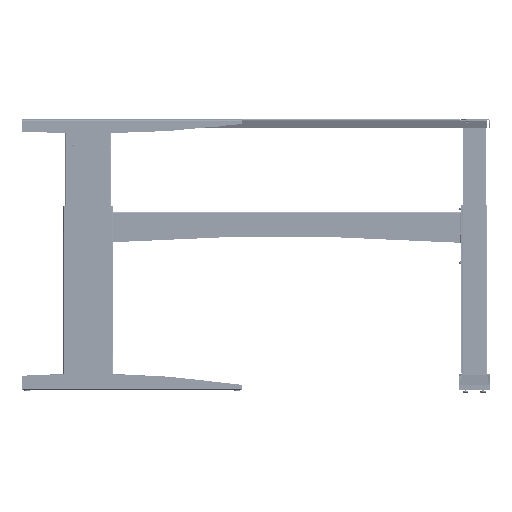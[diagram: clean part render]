
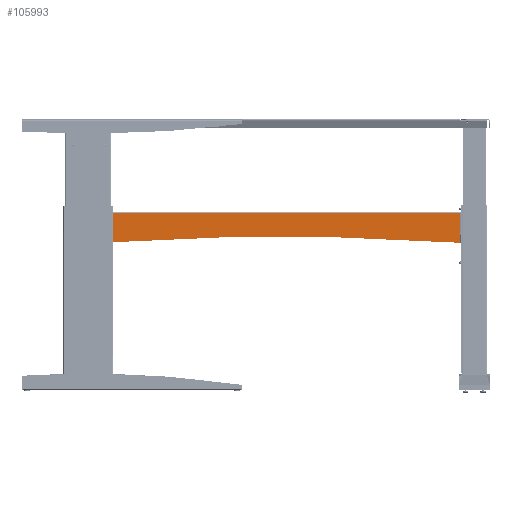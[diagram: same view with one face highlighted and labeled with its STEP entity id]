
A CAD part, left-side view. The second image highlights one B-rep face of the part: STEP entity #105993.
In plain terms, the highlighted planar face has unit normal (-1, 0, 0) as drawn and (1, 0, 0) by its records, which use the part's own axes.
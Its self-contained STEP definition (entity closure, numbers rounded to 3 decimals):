
#1909 = CARTESIAN_POINT ( 'NONE',  ( 23.15, -1., 600.15 ) ) ;
#2254 = VECTOR ( 'NONE', #50030, 1000. ) ;
#2645 = DIRECTION ( 'NONE',  ( 0., 1., 0. ) ) ;
#8365 = CARTESIAN_POINT ( 'NONE',  ( 23.15, -1., -600.15 ) ) ;
#11476 = CARTESIAN_POINT ( 'NONE',  ( 23.15, -1., 601.15 ) ) ;
#11918 = VERTEX_POINT ( 'NONE', #111039 ) ;
#16837 = CARTESIAN_POINT ( 'NONE',  ( 23.15, 0., 601.15 ) ) ;
#18164 = VERTEX_POINT ( 'NONE', #8365 ) ;
#25607 = VERTEX_POINT ( 'NONE', #103954 ) ;
#35878 = DIRECTION ( 'NONE',  ( -1., 0., 0. ) ) ;
#45138 = DIRECTION ( 'NONE',  ( 0., -1., 0. ) ) ;
#50028 = AXIS2_PLACEMENT_3D ( 'NONE', #108892, #35878, #45138 ) ;
#50030 = DIRECTION ( 'NONE',  ( 0., -1., 0. ) ) ;
#57920 = DIRECTION ( 'NONE',  ( 0., -1., 0. ) ) ;
#68166 = VECTOR ( 'NONE', #2645, 1000. ) ;
#69402 = ORIENTED_EDGE ( 'NONE', *, *, #75830, .T. ) ;
#69516 = CARTESIAN_POINT ( 'NONE',  ( 23.15, -1., -600.15 ) ) ;
#70646 = EDGE_LOOP ( 'NONE', ( #108530, #92642, #129724, #69402 ) ) ;
#75830 = EDGE_CURVE ( 'NONE', #11918, #25607, #91518, .T. ) ;
#83082 = EDGE_CURVE ( 'NONE', #86264, #18164, #90072, .T. ) ;
#86264 = VERTEX_POINT ( 'NONE', #1909 ) ;
#86391 = LINE ( 'NONE', #69516, #2254 ) ;
#86563 = CARTESIAN_POINT ( 'NONE',  ( 23.15, -100., 600.15 ) ) ;
#87769 = FACE_OUTER_BOUND ( 'NONE', #70646, .T. ) ;
#89379 = PLANE ( 'NONE',  #134699 ) ;
#90072 = LINE ( 'NONE', #11476, #95148 ) ;
#91518 = CIRCLE ( 'NONE', #50028, 9044.533 ) ;
#92642 = ORIENTED_EDGE ( 'NONE', *, *, #83082, .F. ) ;
#94157 = DIRECTION ( 'NONE',  ( 0., 0., -1. ) ) ;
#95148 = VECTOR ( 'NONE', #94157, 1000. ) ;
#103954 = CARTESIAN_POINT ( 'NONE',  ( 23.15, -99.933, -600.15 ) ) ;
#105993 = ADVANCED_FACE ( 'NONE', ( #87769 ), #89379, .F. ) ;
#108530 = ORIENTED_EDGE ( 'NONE', *, *, #117643, .F. ) ;
#108892 = CARTESIAN_POINT ( 'NONE',  ( 23.15, -9124.533, 0. ) ) ;
#110617 = EDGE_CURVE ( 'NONE', #11918, #86264, #124369, .T. ) ;
#111039 = CARTESIAN_POINT ( 'NONE',  ( 23.15, -99.933, 600.15 ) ) ;
#117643 = EDGE_CURVE ( 'NONE', #18164, #25607, #86391, .T. ) ;
#122649 = DIRECTION ( 'NONE',  ( -1., 0., 0. ) ) ;
#124369 = LINE ( 'NONE', #86563, #68166 ) ;
#129724 = ORIENTED_EDGE ( 'NONE', *, *, #110617, .F. ) ;
#134699 = AXIS2_PLACEMENT_3D ( 'NONE', #16837, #122649, #57920 ) ;
